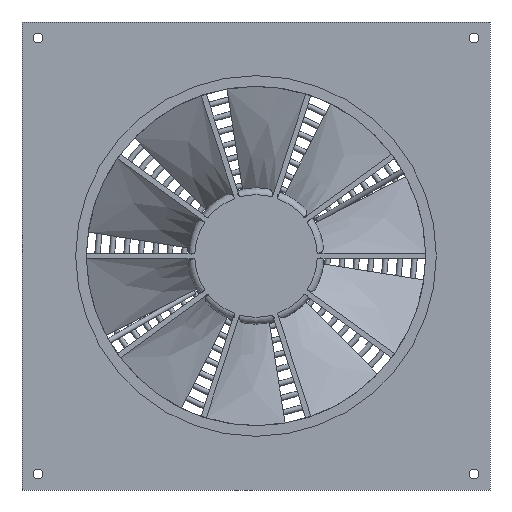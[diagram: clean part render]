
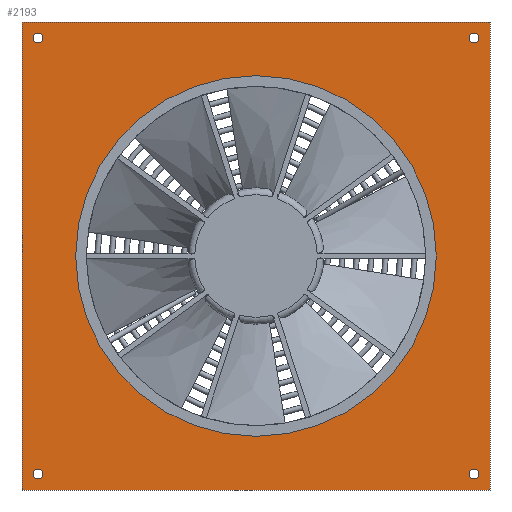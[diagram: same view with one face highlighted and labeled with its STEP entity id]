
A CAD part, front view. The second image highlights one B-rep face of the part: STEP entity #2193.
In plain terms, the highlighted planar face has unit normal (0, -1, 0).
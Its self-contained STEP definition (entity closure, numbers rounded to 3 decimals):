
#58=FACE_BOUND('',#626,.T.);
#59=FACE_BOUND('',#627,.T.);
#60=FACE_BOUND('',#628,.T.);
#61=FACE_BOUND('',#629,.T.);
#62=FACE_BOUND('',#630,.T.);
#84=PLANE('',#2419);
#248=LINE('',#3890,#338);
#250=LINE('',#3897,#340);
#252=LINE('',#3903,#342);
#253=LINE('',#3905,#343);
#338=VECTOR('',#2722,10.);
#340=VECTOR('',#2730,10.);
#342=VECTOR('',#2736,10.);
#343=VECTOR('',#2739,10.);
#505=FACE_OUTER_BOUND('',#625,.T.);
#625=EDGE_LOOP('',(#1740,#1741,#1742,#1743));
#626=EDGE_LOOP('',(#1744,#1745));
#627=EDGE_LOOP('',(#1746,#1747));
#628=EDGE_LOOP('',(#1748,#1749));
#629=EDGE_LOOP('',(#1750,#1751));
#630=EDGE_LOOP('',(#1752));
#762=CIRCLE('',#2402,4.5);
#763=CIRCLE('',#2403,4.5);
#764=CIRCLE('',#2405,4.5);
#765=CIRCLE('',#2406,4.5);
#766=CIRCLE('',#2408,4.5);
#767=CIRCLE('',#2409,4.5);
#768=CIRCLE('',#2411,4.5);
#769=CIRCLE('',#2412,4.5);
#771=CIRCLE('',#2415,169.5);
#917=VERTEX_POINT('',#3887);
#918=VERTEX_POINT('',#3889);
#920=VERTEX_POINT('',#3895);
#922=VERTEX_POINT('',#3901);
#927=VERTEX_POINT('',#3917);
#928=VERTEX_POINT('',#3918);
#929=VERTEX_POINT('',#3923);
#930=VERTEX_POINT('',#3924);
#931=VERTEX_POINT('',#3929);
#932=VERTEX_POINT('',#3930);
#933=VERTEX_POINT('',#3935);
#934=VERTEX_POINT('',#3936);
#936=VERTEX_POINT('',#3943);
#1205=EDGE_CURVE('',#918,#917,#248,.T.);
#1209=EDGE_CURVE('',#917,#920,#250,.T.);
#1212=EDGE_CURVE('',#920,#922,#252,.T.);
#1213=EDGE_CURVE('',#922,#918,#253,.T.);
#1219=EDGE_CURVE('',#927,#928,#762,.T.);
#1220=EDGE_CURVE('',#928,#927,#763,.T.);
#1222=EDGE_CURVE('',#929,#930,#764,.T.);
#1223=EDGE_CURVE('',#930,#929,#765,.T.);
#1225=EDGE_CURVE('',#931,#932,#766,.T.);
#1226=EDGE_CURVE('',#932,#931,#767,.T.);
#1228=EDGE_CURVE('',#933,#934,#768,.T.);
#1229=EDGE_CURVE('',#934,#933,#769,.T.);
#1233=EDGE_CURVE('',#936,#936,#771,.T.);
#1740=ORIENTED_EDGE('',*,*,#1205,.T.);
#1741=ORIENTED_EDGE('',*,*,#1209,.T.);
#1742=ORIENTED_EDGE('',*,*,#1212,.T.);
#1743=ORIENTED_EDGE('',*,*,#1213,.T.);
#1744=ORIENTED_EDGE('',*,*,#1219,.T.);
#1745=ORIENTED_EDGE('',*,*,#1220,.T.);
#1746=ORIENTED_EDGE('',*,*,#1222,.T.);
#1747=ORIENTED_EDGE('',*,*,#1223,.T.);
#1748=ORIENTED_EDGE('',*,*,#1225,.T.);
#1749=ORIENTED_EDGE('',*,*,#1226,.T.);
#1750=ORIENTED_EDGE('',*,*,#1228,.T.);
#1751=ORIENTED_EDGE('',*,*,#1229,.T.);
#1752=ORIENTED_EDGE('',*,*,#1233,.T.);
#2193=ADVANCED_FACE('',(#505,#58,#59,#60,#61,#62),#84,.F.);
#2402=AXIS2_PLACEMENT_3D('',#3919,#2753,#2754);
#2403=AXIS2_PLACEMENT_3D('',#3920,#2755,#2756);
#2405=AXIS2_PLACEMENT_3D('',#3925,#2760,#2761);
#2406=AXIS2_PLACEMENT_3D('',#3926,#2762,#2763);
#2408=AXIS2_PLACEMENT_3D('',#3931,#2767,#2768);
#2409=AXIS2_PLACEMENT_3D('',#3932,#2769,#2770);
#2411=AXIS2_PLACEMENT_3D('',#3937,#2774,#2775);
#2412=AXIS2_PLACEMENT_3D('',#3938,#2776,#2777);
#2415=AXIS2_PLACEMENT_3D('',#3945,#2784,#2785);
#2419=AXIS2_PLACEMENT_3D('',#3949,#2792,#2793);
#2722=DIRECTION('',(1.,0.,0.));
#2730=DIRECTION('',(0.,0.,1.));
#2736=DIRECTION('',(-1.,0.,0.));
#2739=DIRECTION('',(0.,0.,-1.));
#2753=DIRECTION('center_axis',(0.,1.,0.));
#2754=DIRECTION('ref_axis',(1.,0.,0.));
#2755=DIRECTION('center_axis',(0.,1.,0.));
#2756=DIRECTION('ref_axis',(1.,0.,0.));
#2760=DIRECTION('center_axis',(0.,1.,0.));
#2761=DIRECTION('ref_axis',(1.,0.,0.));
#2762=DIRECTION('center_axis',(0.,1.,0.));
#2763=DIRECTION('ref_axis',(1.,0.,0.));
#2767=DIRECTION('center_axis',(0.,1.,0.));
#2768=DIRECTION('ref_axis',(1.,0.,0.));
#2769=DIRECTION('center_axis',(0.,1.,0.));
#2770=DIRECTION('ref_axis',(1.,0.,0.));
#2774=DIRECTION('center_axis',(0.,1.,0.));
#2775=DIRECTION('ref_axis',(1.,0.,0.));
#2776=DIRECTION('center_axis',(0.,1.,0.));
#2777=DIRECTION('ref_axis',(1.,0.,0.));
#2784=DIRECTION('center_axis',(0.,1.,0.));
#2785=DIRECTION('ref_axis',(-1.,0.,0.));
#2792=DIRECTION('center_axis',(0.,1.,0.));
#2793=DIRECTION('ref_axis',(0.,0.,1.));
#3887=CARTESIAN_POINT('',(220.,0.,-220.));
#3889=CARTESIAN_POINT('',(-220.,0.,-220.));
#3890=CARTESIAN_POINT('',(-220.,0.,-220.));
#3895=CARTESIAN_POINT('',(220.,0.,220.));
#3897=CARTESIAN_POINT('',(220.,0.,-220.));
#3901=CARTESIAN_POINT('',(-220.,0.,220.));
#3903=CARTESIAN_POINT('',(220.,0.,220.));
#3905=CARTESIAN_POINT('',(-220.,0.,220.));
#3917=CARTESIAN_POINT('',(-200.5,0.,-205.));
#3918=CARTESIAN_POINT('',(-209.5,0.,-205.));
#3919=CARTESIAN_POINT('Origin',(-205.,0.,-205.));
#3920=CARTESIAN_POINT('Origin',(-205.,0.,-205.));
#3923=CARTESIAN_POINT('',(209.5,0.,205.));
#3924=CARTESIAN_POINT('',(200.5,0.,205.));
#3925=CARTESIAN_POINT('Origin',(205.,0.,205.));
#3926=CARTESIAN_POINT('Origin',(205.,0.,205.));
#3929=CARTESIAN_POINT('',(209.5,0.,-205.));
#3930=CARTESIAN_POINT('',(200.5,0.,-205.));
#3931=CARTESIAN_POINT('Origin',(205.,0.,-205.));
#3932=CARTESIAN_POINT('Origin',(205.,0.,-205.));
#3935=CARTESIAN_POINT('',(-200.5,0.,205.));
#3936=CARTESIAN_POINT('',(-209.5,0.,205.));
#3937=CARTESIAN_POINT('Origin',(-205.,0.,205.));
#3938=CARTESIAN_POINT('Origin',(-205.,0.,205.));
#3943=CARTESIAN_POINT('',(169.5,0.,0.));
#3945=CARTESIAN_POINT('Origin',(0.,0.,0.));
#3949=CARTESIAN_POINT('Origin',(0.,0.,0.));
